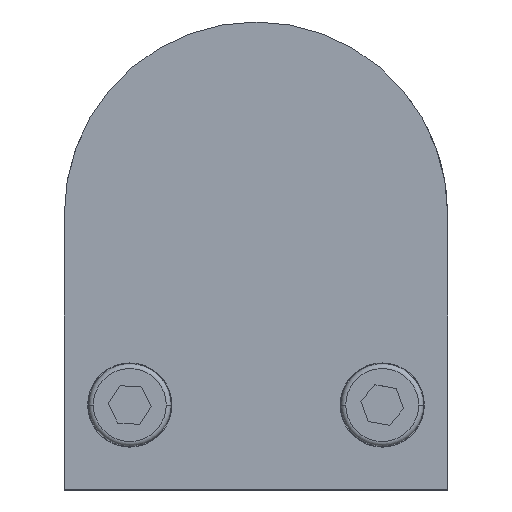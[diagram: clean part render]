
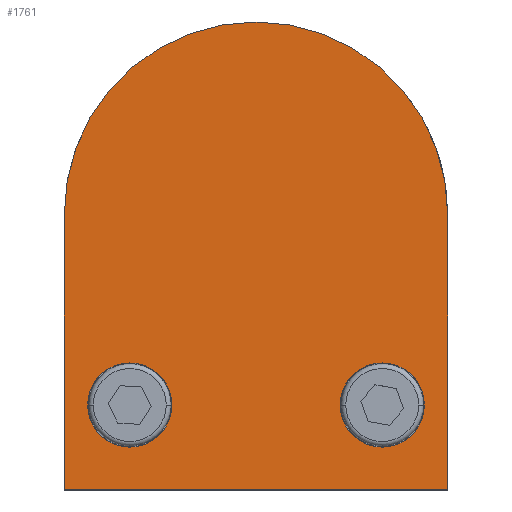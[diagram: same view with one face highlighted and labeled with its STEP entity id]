
A CAD part, top view. The second image highlights one B-rep face of the part: STEP entity #1761.
In plain terms, the highlighted planar face has unit normal (0, 0, 1).
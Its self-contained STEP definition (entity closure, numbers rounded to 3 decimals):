
#33 = CIRCLE ( 'NONE', #1552, 4.5 ) ;
#76 = ORIENTED_EDGE ( 'NONE', *, *, #2316, .T. ) ;
#179 = CARTESIAN_POINT ( 'NONE',  ( 0., 59.5, 14.25 ) ) ;
#209 = CARTESIAN_POINT ( 'NONE',  ( 0., 30., 14.25 ) ) ;
#278 = LINE ( 'NONE', #1697, #1721 ) ;
#414 = CIRCLE ( 'NONE', #2139, 4.5 ) ;
#421 = ORIENTED_EDGE ( 'NONE', *, *, #2208, .F. ) ;
#441 = EDGE_CURVE ( 'NONE', #898, #920, #33, .T. ) ;
#464 = FACE_OUTER_BOUND ( 'NONE', #1098, .T. ) ;
#517 = EDGE_CURVE ( 'NONE', #920, #898, #1509, .T. ) ;
#543 = VERTEX_POINT ( 'NONE', #1286 ) ;
#584 = CARTESIAN_POINT ( 'NONE',  ( 18., 39.038, 14.25 ) ) ;
#623 = CARTESIAN_POINT ( 'NONE',  ( 9., 39.038, 14.25 ) ) ;
#646 = DIRECTION ( 'NONE',  ( 0., 0., 1. ) ) ;
#689 = EDGE_CURVE ( 'NONE', #1868, #895, #1767, .T. ) ;
#704 = EDGE_LOOP ( 'NONE', ( #1683, #992 ) ) ;
#733 = ORIENTED_EDGE ( 'NONE', *, *, #1682, .F. ) ;
#799 = EDGE_CURVE ( 'NONE', #1227, #2514, #1234, .T. ) ;
#882 = PLANE ( 'NONE',  #1322 ) ;
#895 = VERTEX_POINT ( 'NONE', #2269 ) ;
#898 = VERTEX_POINT ( 'NONE', #584 ) ;
#905 = DIRECTION ( 'NONE',  ( 1., 0., 0. ) ) ;
#920 = VERTEX_POINT ( 'NONE', #623 ) ;
#924 = DIRECTION ( 'NONE',  ( 1., 0., 0. ) ) ;
#992 = ORIENTED_EDGE ( 'NONE', *, *, #517, .F. ) ;
#1026 = VECTOR ( 'NONE', #1713, 1000. ) ;
#1027 = DIRECTION ( 'NONE',  ( -1., 0., 0. ) ) ;
#1041 = CARTESIAN_POINT ( 'NONE',  ( 13.5, 39.038, 14.25 ) ) ;
#1045 = CARTESIAN_POINT ( 'NONE',  ( -13.5, 39.038, 14.25 ) ) ;
#1073 = LINE ( 'NONE', #209, #1907 ) ;
#1098 = EDGE_LOOP ( 'NONE', ( #733, #76, #1793, #2448 ) ) ;
#1209 = EDGE_CURVE ( 'NONE', #895, #543, #278, .T. ) ;
#1212 = DIRECTION ( 'NONE',  ( 0., 0., 1. ) ) ;
#1215 = ORIENTED_EDGE ( 'NONE', *, *, #799, .F. ) ;
#1227 = VERTEX_POINT ( 'NONE', #1903 ) ;
#1234 = CIRCLE ( 'NONE', #1658, 4.5 ) ;
#1286 = CARTESIAN_POINT ( 'NONE',  ( -20.5, 30., 14.25 ) ) ;
#1319 = FACE_BOUND ( 'NONE', #2551, .T. ) ;
#1322 = AXIS2_PLACEMENT_3D ( 'NONE', #1560, #2358, #924 ) ;
#1493 = FACE_BOUND ( 'NONE', #704, .T. ) ;
#1509 = CIRCLE ( 'NONE', #1638, 4.5 ) ;
#1552 = AXIS2_PLACEMENT_3D ( 'NONE', #1041, #2490, #2075 ) ;
#1560 = CARTESIAN_POINT ( 'NONE',  ( 0., 59.5, 14.25 ) ) ;
#1567 = CARTESIAN_POINT ( 'NONE',  ( 20.5, 30., 14.25 ) ) ;
#1600 = VERTEX_POINT ( 'NONE', #1567 ) ;
#1638 = AXIS2_PLACEMENT_3D ( 'NONE', #2502, #2118, #905 ) ;
#1658 = AXIS2_PLACEMENT_3D ( 'NONE', #1045, #646, #2483 ) ;
#1670 = LINE ( 'NONE', #2303, #1026 ) ;
#1682 = EDGE_CURVE ( 'NONE', #1600, #543, #1073, .T. ) ;
#1683 = ORIENTED_EDGE ( 'NONE', *, *, #441, .F. ) ;
#1697 = CARTESIAN_POINT ( 'NONE',  ( -20.5, 0., 14.25 ) ) ;
#1701 = CARTESIAN_POINT ( 'NONE',  ( 20.5, 59.5, 14.25 ) ) ;
#1713 = DIRECTION ( 'NONE',  ( 0., 1., 0. ) ) ;
#1721 = VECTOR ( 'NONE', #2348, 1000. ) ;
#1761 = ADVANCED_FACE ( 'NONE', ( #1319, #1493, #464 ), #882, .T. ) ;
#1767 = CIRCLE ( 'NONE', #2070, 20.5 ) ;
#1793 = ORIENTED_EDGE ( 'NONE', *, *, #689, .T. ) ;
#1831 = DIRECTION ( 'NONE',  ( 1., 0., 0. ) ) ;
#1868 = VERTEX_POINT ( 'NONE', #1701 ) ;
#1903 = CARTESIAN_POINT ( 'NONE',  ( -18., 39.038, 14.25 ) ) ;
#1907 = VECTOR ( 'NONE', #1027, 1000. ) ;
#2047 = CARTESIAN_POINT ( 'NONE',  ( -9., 39.038, 14.25 ) ) ;
#2070 = AXIS2_PLACEMENT_3D ( 'NONE', #179, #2232, #1831 ) ;
#2075 = DIRECTION ( 'NONE',  ( 1., 0., 0. ) ) ;
#2118 = DIRECTION ( 'NONE',  ( 0., 0., 1. ) ) ;
#2139 = AXIS2_PLACEMENT_3D ( 'NONE', #2430, #1212, #2646 ) ;
#2208 = EDGE_CURVE ( 'NONE', #2514, #1227, #414, .T. ) ;
#2232 = DIRECTION ( 'NONE',  ( 0., 0., 1. ) ) ;
#2269 = CARTESIAN_POINT ( 'NONE',  ( -20.5, 59.5, 14.25 ) ) ;
#2303 = CARTESIAN_POINT ( 'NONE',  ( 20.5, 0., 14.25 ) ) ;
#2316 = EDGE_CURVE ( 'NONE', #1600, #1868, #1670, .T. ) ;
#2348 = DIRECTION ( 'NONE',  ( 0., -1., 0. ) ) ;
#2358 = DIRECTION ( 'NONE',  ( 0., 0., 1. ) ) ;
#2430 = CARTESIAN_POINT ( 'NONE',  ( -13.5, 39.038, 14.25 ) ) ;
#2448 = ORIENTED_EDGE ( 'NONE', *, *, #1209, .T. ) ;
#2483 = DIRECTION ( 'NONE',  ( 1., 0., 0. ) ) ;
#2490 = DIRECTION ( 'NONE',  ( 0., 0., 1. ) ) ;
#2502 = CARTESIAN_POINT ( 'NONE',  ( 13.5, 39.038, 14.25 ) ) ;
#2514 = VERTEX_POINT ( 'NONE', #2047 ) ;
#2551 = EDGE_LOOP ( 'NONE', ( #421, #1215 ) ) ;
#2646 = DIRECTION ( 'NONE',  ( 1., 0., 0. ) ) ;
